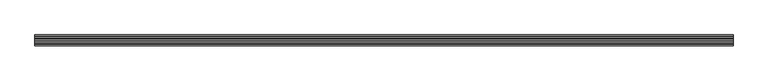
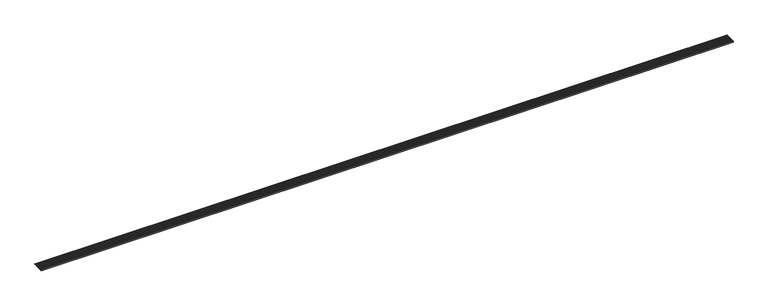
"""IFC4 building model written with IfcOpenShell, lengths in millimetres: slab geometry, ROSA GRES_003 : Pieza 003_Aqua_Marino_Anti-Slip."""

from ifc_helpers import new_model, si_unit, point, frame, frame_2d, origin, place, context, project, spatial, polyline, circle_curve, trimmed, segment, composite_curve, outline, extrude, source, transform, mapped, element, save


def slab_7202c741(model_context):
    return source(origin(), model_context, "Body", "SweptSolid", [
        extrude(outline(composite_curve([segment(trimmed(circle_curve(frame_2d((-7.6419163, 1.7573601)), 7.7398374), [point((-7.6419163, 9.4971975))], [point((0.0, 2.9846331))], False, "CARTESIAN"), True, "CONTINUOUS"), segment(trimmed(circle_curve(frame_2d((-1.9104791, 2.6778148)), 1.9349594), [point((0.0, 2.9846331))], [point((-0.5422562, 1.309592))], False, "CARTESIAN"), True, "CONTINUOUS"), segment(polyline([(-0.5422562, 1.309592), (-1.8518481, 0.0), (-118.9168888, 0.0), (-118.9168888, 8.0603545)]), True, "CONTINUOUS"), segment(trimmed(circle_curve(frame_2d((-118.9168888, 13.6516438)), 5.5912893), [point((-118.9168888, 8.0603545))], [point((-114.6668888, 10.0184612))], True, "CARTESIAN"), True, "CONTINUOUS"), segment(polyline([(-114.6668888, 10.0184612), (-114.6668888, 4.0921512), (-13.1748183, 4.0921512), (-13.1748183, 9.4971975), (-7.6419163, 9.4971975)]), True, "CONTINUOUS")], self_intersect=False)), frame((0.0, 0.0, 0.0), z_axis=(1.0, 0.0, 0.0), x_axis=(0.0, 1.0, 0.0)), (0.0, 0.0, 1.0), 7500.0),
        extrude(outline(composite_curve([segment(polyline([(-106.1668888, 10.0184612), (-106.1668888, 4.0921512), (-114.6668888, 4.0921512), (-114.6668888, 10.0184612)]), True, "CONTINUOUS"), segment(trimmed(circle_curve(frame_2d((-110.4168888, 13.6516438)), 5.5912893), [point((-114.6668888, 10.0184612))], [point((-106.1668888, 10.0184612))], True, "CARTESIAN"), True, "CONTINUOUS")], self_intersect=False)), frame((0.0, 0.0, 0.0), z_axis=(1.0, 0.0, 0.0), x_axis=(0.0, 1.0, 0.0)), (0.0, 0.0, 1.0), 7500.0),
        extrude(outline(polyline([(8.5, 0.0), (8.5, -7500.0), (-8.5, -7500.0), (-8.5, 0.0), (8.5, 0.0)])), frame((7500.0, -80.6668888, 4.0921512), z_axis=(0.0, -4.531644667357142e-12, 1.0), x_axis=(0.0, -1.0, -4.531644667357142e-12)), (0.0, 0.0, 1.0), 2.92631),
        extrude(outline(polyline([(8.5, 0.0), (8.5, -7500.0), (-8.5, -7500.0), (-8.5, 0.0), (8.5, 0.0)])), frame((7500.0, -46.6668888, 4.0921512), z_axis=(0.0, -4.531613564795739e-12, 1.0), x_axis=(0.0, -1.0, -4.531613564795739e-12)), (0.0, 0.0, 1.0), 2.92631),
        extrude(outline(composite_curve([segment(polyline([(-13.1748183, 9.4971975), (-13.1748183, 4.0921512), (-21.1668888, 4.0921512), (-21.1668888, 10.0184612)]), True, "CONTINUOUS"), segment(trimmed(circle_curve(frame_2d((-16.9168888, 13.6516438)), 5.5912893), [point((-21.1668888, 10.0184612))], [point((-13.1748183, 9.4971975))], True, "CARTESIAN"), True, "CONTINUOUS")], self_intersect=False)), frame((0.0, 0.0, 0.0), z_axis=(1.0, 0.0, 0.0), x_axis=(0.0, 1.0, 0.0)), (0.0, 0.0, 1.0), 7500.0),
        extrude(outline(composite_curve([segment(polyline([(-21.1668888, 10.0221512), (-21.1668888, 4.0921512), (-38.1668888, 4.0921512), (-38.1668888, 7.0184612), (-55.1668888, 7.0184612), (-55.1668888, 4.0921512), (-72.1668888, 4.0921512), (-72.1668888, 7.0184612), (-89.1668888, 7.0184612), (-89.1668888, 4.0921512), (-106.1668888, 4.0921512), (-106.1668888, 10.0221512)]), True, "CONTINUOUS"), segment(trimmed(circle_curve(frame_2d((-101.9168888, 13.6553338)), 5.5912893), [point((-106.1668888, 10.0221512))], [point((-97.6668888, 10.0221512))], True, "CARTESIAN"), True, "CONTINUOUS"), segment(trimmed(circle_curve(frame_2d((-93.4168888, 13.6553338)), 5.5912893), [point((-97.6668888, 10.0221512))], [point((-89.1668888, 10.0221512))], True, "CARTESIAN"), True, "CONTINUOUS"), segment(trimmed(circle_curve(frame_2d((-84.9168888, 13.6553338)), 5.5912893), [point((-89.1668888, 10.0221512))], [point((-80.6668888, 10.0221512))], True, "CARTESIAN"), True, "CONTINUOUS"), segment(trimmed(circle_curve(frame_2d((-76.4168888, 13.6553338)), 5.5912893), [point((-80.6668888, 10.0221512))], [point((-72.1668888, 10.0221512))], True, "CARTESIAN"), True, "CONTINUOUS"), segment(trimmed(circle_curve(frame_2d((-67.9168888, 13.6553338)), 5.5912893), [point((-72.1668888, 10.0221512))], [point((-63.6668888, 10.0221512))], True, "CARTESIAN"), True, "CONTINUOUS"), segment(trimmed(circle_curve(frame_2d((-59.4168888, 13.6553338)), 5.5912893), [point((-63.6668888, 10.0221512))], [point((-55.1668888, 10.0221512))], True, "CARTESIAN"), True, "CONTINUOUS"), segment(trimmed(circle_curve(frame_2d((-50.9168888, 13.6553338)), 5.5912893), [point((-55.1668888, 10.0221512))], [point((-46.6668888, 10.0221512))], True, "CARTESIAN"), True, "CONTINUOUS"), segment(trimmed(circle_curve(frame_2d((-42.4168888, 13.6553338)), 5.5912893), [point((-46.6668888, 10.0221512))], [point((-38.1668888, 10.0221512))], True, "CARTESIAN"), True, "CONTINUOUS"), segment(trimmed(circle_curve(frame_2d((-33.9168888, 13.6553338)), 5.5912893), [point((-38.1668888, 10.0221512))], [point((-29.6668888, 10.0221512))], True, "CARTESIAN"), True, "CONTINUOUS"), segment(trimmed(circle_curve(frame_2d((-25.4168888, 13.6553338)), 5.5912893), [point((-29.6668888, 10.0221512))], [point((-21.1668888, 10.0221512))], True, "CARTESIAN"), True, "CONTINUOUS")], self_intersect=False)), frame((0.0, 0.0, 0.0), z_axis=(1.0, 0.0, 0.0), x_axis=(0.0, 1.0, 0.0)), (0.0, 0.0, 1.0), 7500.0),
    ])


if __name__ == "__main__":
    model = new_model("IFC4")
    model_context = context("Model", 3, world=origin())
    ifc_project = project(units=[si_unit("LENGTHUNIT", "METRE", prefix="MILLI")], contexts=[model_context])
    site = spatial("IfcSite", under=ifc_project)
    building = spatial("IfcBuilding", under=site)
    placement = place(None, origin())
    slab_shape = slab_7202c741(model_context)
    element("IfcSlab", 1, ObjectType="ROSA GRES_003 : Pieza 003_Aqua_Marino_Anti-Slip", at=placement, inside=building, context=model_context, shape_type="MappedRepresentation", body=[
        mapped(slab_shape, transform((0.0, 0.0, 0.0), x_axis=(1.0, 0.0, 0.0), y_axis=(0.0, 1.0, 0.0), z_axis=(0.0, 0.0, 1.0))),
    ])
    save(model, "model.ifc")
